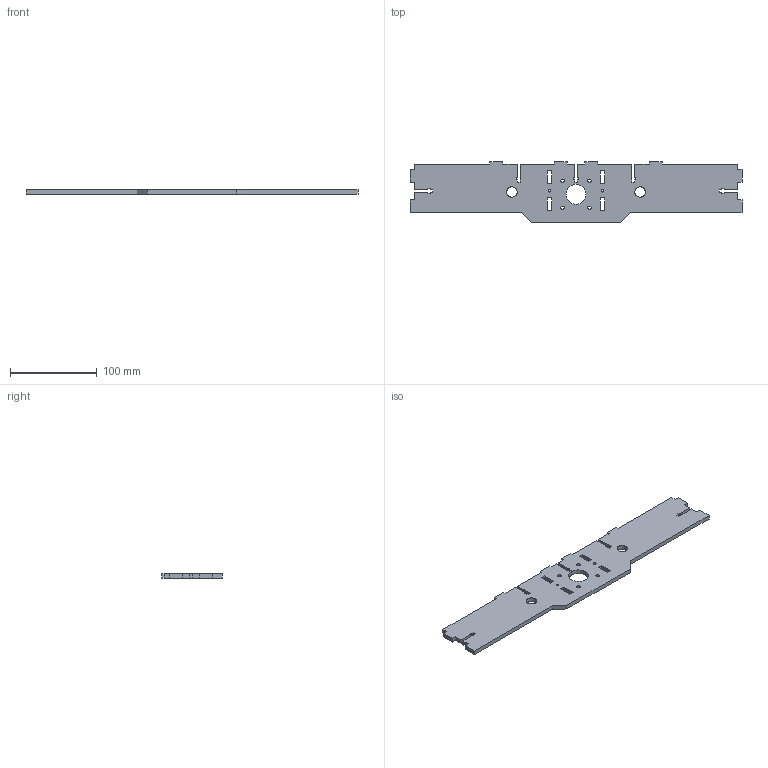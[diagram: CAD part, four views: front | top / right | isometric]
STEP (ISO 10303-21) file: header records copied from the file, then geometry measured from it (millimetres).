
FILE_DESCRIPTION(/* description */ (''),/* implementation_level */ '2;1');
FILE_NAME(/* name */ 'REFUER~1',/* time_stamp */ '2019-04-01T20:02:19-03:00',/* author */ (''),/* organization */ (''),/* preprocessor_version */ 'ST-DEVELOPER v16.5',/* originating_system */ '',/* authorisation */ '');
FILE_SCHEMA (('AUTOMOTIVE_DESIGN'));
Length unit declared in the file: millimetre
Products named in the file (1): Document
Bounding box: 382 x 70.12 x 5 mm (x, y, z)
Volume: 106196.7 mm3; surface area: 50154.3 mm2
Topology: 1 solids, 1 shells, 134 faces, 396 edges, 264 vertices
Faces by surface type: plane 114, bspline 20
Entity records: 4155 total; most frequent: CARTESIAN_POINT 1552, ORIENTED_EDGE 792, EDGE_CURVE 396, B_SPLINE_CURVE_WITH_KNOTS 336, VERTEX_POINT 264, EDGE_LOOP 160, ADVANCED_FACE 134, FACE_OUTER_BOUND 134
